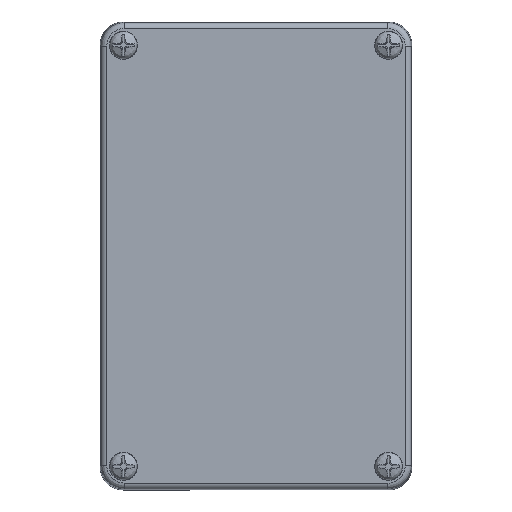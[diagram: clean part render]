
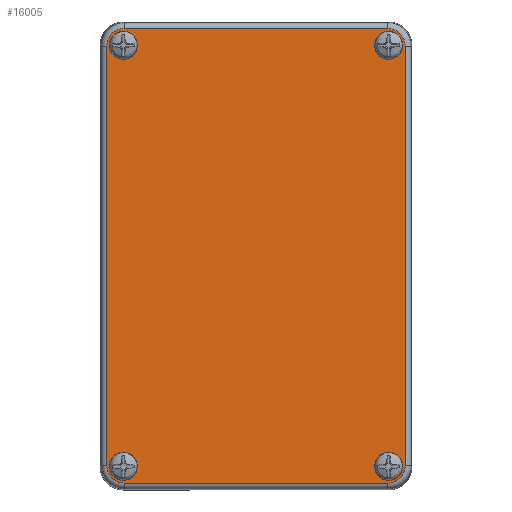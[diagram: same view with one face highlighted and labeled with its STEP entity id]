
A CAD part, top view. The second image highlights one B-rep face of the part: STEP entity #16005.
In plain terms, the highlighted planar face has unit normal (0, 0, 1) as drawn and (-1, 0, 0) by its records, which use the part's own axes.
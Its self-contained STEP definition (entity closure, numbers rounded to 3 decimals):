
#15197=CARTESIAN_POINT('',(53.939,42.289,7.04));
#15198=VERTEX_POINT('',#15197);
#15199=CARTESIAN_POINT('',(53.939,42.289,7.4));
#15200=DIRECTION('',(1.0,0.0,0.0));
#15201=DIRECTION('',(0.0,0.0,1.0));
#15202=AXIS2_PLACEMENT_3D('',#15199,#15200,#15201);
#15203=CIRCLE('',#15202,0.36);
#15204=EDGE_CURVE('',#15198,#15198,#15203,.T.);
#15253=CARTESIAN_POINT('',(53.939,42.289,0.24));
#15254=VERTEX_POINT('',#15253);
#15255=CARTESIAN_POINT('',(53.939,42.289,0.6));
#15256=DIRECTION('',(1.0,0.0,0.0));
#15257=DIRECTION('',(0.0,0.0,1.0));
#15258=AXIS2_PLACEMENT_3D('',#15255,#15256,#15257);
#15259=CIRCLE('',#15258,0.36);
#15260=EDGE_CURVE('',#15254,#15254,#15259,.T.);
#15309=CARTESIAN_POINT('',(53.939,31.489,7.04));
#15310=VERTEX_POINT('',#15309);
#15311=CARTESIAN_POINT('',(53.939,31.489,7.4));
#15312=DIRECTION('',(1.0,0.0,0.0));
#15313=DIRECTION('',(0.0,0.0,1.0));
#15314=AXIS2_PLACEMENT_3D('',#15311,#15312,#15313);
#15315=CIRCLE('',#15314,0.36);
#15316=EDGE_CURVE('',#15310,#15310,#15315,.T.);
#15365=CARTESIAN_POINT('',(53.939,31.489,0.24));
#15366=VERTEX_POINT('',#15365);
#15367=CARTESIAN_POINT('',(53.939,31.489,0.6));
#15368=DIRECTION('',(1.0,0.0,0.0));
#15369=DIRECTION('',(0.0,0.0,1.0));
#15370=AXIS2_PLACEMENT_3D('',#15367,#15368,#15369);
#15371=CIRCLE('',#15370,0.36);
#15372=EDGE_CURVE('',#15366,#15366,#15371,.T.);
#15432=CARTESIAN_POINT('',(53.939,42.716,0.623));
#15433=VERTEX_POINT('',#15432);
#15441=CARTESIAN_POINT('',(53.939,42.716,7.377));
#15442=VERTEX_POINT('',#15441);
#15443=CARTESIAN_POINT('',(53.939,42.716,0.623));
#15444=DIRECTION('',(0.0,0.0,1.0));
#15445=VECTOR('',#15444,6.754);
#15446=LINE('',#15443,#15445);
#15447=EDGE_CURVE('',#15433,#15442,#15446,.T.);
#15520=CARTESIAN_POINT('',(53.939,42.266,0.173));
#15521=VERTEX_POINT('',#15520);
#15529=CARTESIAN_POINT('',(53.939,42.266,0.623));
#15530=DIRECTION('',(1.,0.0,0.0));
#15531=DIRECTION('',(0.0,0.707,-0.707));
#15532=AXIS2_PLACEMENT_3D('',#15529,#15530,#15531);
#15533=ELLIPSE('',#15532,0.45,0.45);
#15534=EDGE_CURVE('',#15521,#15433,#15533,.T.);
#15598=CARTESIAN_POINT('',(53.939,42.266,7.827));
#15599=VERTEX_POINT('',#15598);
#15617=CARTESIAN_POINT('',(53.939,42.266,7.377));
#15618=DIRECTION('',(1.,0.0,0.0));
#15619=DIRECTION('',(0.0,0.707,0.707));
#15620=AXIS2_PLACEMENT_3D('',#15617,#15618,#15619);
#15621=ELLIPSE('',#15620,0.45,0.45);
#15622=EDGE_CURVE('',#15442,#15599,#15621,.T.);
#15634=CARTESIAN_POINT('',(53.939,31.512,0.173));
#15635=VERTEX_POINT('',#15634);
#15643=CARTESIAN_POINT('',(53.939,31.512,0.173));
#15644=DIRECTION('',(0.0,1.0,0.0));
#15645=VECTOR('',#15644,10.754);
#15646=LINE('',#15643,#15645);
#15647=EDGE_CURVE('',#15635,#15521,#15646,.T.);
#15664=CARTESIAN_POINT('',(53.939,31.512,7.827));
#15665=VERTEX_POINT('',#15664);
#15682=CARTESIAN_POINT('',(53.939,42.266,7.827));
#15683=DIRECTION('',(0.0,-1.0,0.0));
#15684=VECTOR('',#15683,10.754);
#15685=LINE('',#15682,#15684);
#15686=EDGE_CURVE('',#15599,#15665,#15685,.T.);
#15744=CARTESIAN_POINT('',(53.939,31.062,0.623));
#15745=VERTEX_POINT('',#15744);
#15753=CARTESIAN_POINT('',(53.939,31.512,0.623));
#15754=DIRECTION('',(1.,0.0,0.0));
#15755=DIRECTION('',(0.0,-0.707,-0.707));
#15756=AXIS2_PLACEMENT_3D('',#15753,#15754,#15755);
#15757=ELLIPSE('',#15756,0.45,0.45);
#15758=EDGE_CURVE('',#15745,#15635,#15757,.T.);
#15822=CARTESIAN_POINT('',(53.939,31.062,7.377));
#15823=VERTEX_POINT('',#15822);
#15841=CARTESIAN_POINT('',(53.939,31.512,7.377));
#15842=DIRECTION('',(1.,0.0,0.0));
#15843=DIRECTION('',(0.0,-0.707,0.707));
#15844=AXIS2_PLACEMENT_3D('',#15841,#15842,#15843);
#15845=ELLIPSE('',#15844,0.45,0.45);
#15846=EDGE_CURVE('',#15665,#15823,#15845,.T.);
#15857=CARTESIAN_POINT('',(53.939,31.062,7.377));
#15858=DIRECTION('',(0.0,0.0,-1.0));
#15859=VECTOR('',#15858,6.754);
#15860=LINE('',#15857,#15859);
#15861=EDGE_CURVE('',#15823,#15745,#15860,.T.);
#15978=CARTESIAN_POINT('',(53.939,30.914,0.0));
#15979=DIRECTION('',(-1.0,0.0,0.0));
#15980=DIRECTION('',(0.0,0.0,1.0));
#15981=AXIS2_PLACEMENT_3D('',#15978,#15979,#15980);
#15982=PLANE('',#15981);
#15983=ORIENTED_EDGE('',*,*,#15447,.F.);
#15984=ORIENTED_EDGE('',*,*,#15534,.F.);
#15985=ORIENTED_EDGE('',*,*,#15647,.F.);
#15986=ORIENTED_EDGE('',*,*,#15758,.F.);
#15987=ORIENTED_EDGE('',*,*,#15861,.F.);
#15988=ORIENTED_EDGE('',*,*,#15846,.F.);
#15989=ORIENTED_EDGE('',*,*,#15686,.F.);
#15990=ORIENTED_EDGE('',*,*,#15622,.F.);
#15991=EDGE_LOOP('',(#15983,#15984,#15985,#15986,#15987,#15988,#15989,#15990));
#15992=FACE_OUTER_BOUND('',#15991,.T.);
#15993=ORIENTED_EDGE('',*,*,#15372,.T.);
#15994=EDGE_LOOP('',(#15993));
#15995=FACE_BOUND('',#15994,.T.);
#15996=ORIENTED_EDGE('',*,*,#15316,.T.);
#15997=EDGE_LOOP('',(#15996));
#15998=FACE_BOUND('',#15997,.T.);
#15999=ORIENTED_EDGE('',*,*,#15260,.T.);
#16000=EDGE_LOOP('',(#15999));
#16001=FACE_BOUND('',#16000,.T.);
#16002=ORIENTED_EDGE('',*,*,#15204,.T.);
#16003=EDGE_LOOP('',(#16002));
#16004=FACE_BOUND('',#16003,.T.);
#16005=ADVANCED_FACE('',(#15992,#15995,#15998,#16001,#16004),#15982,.T.);
